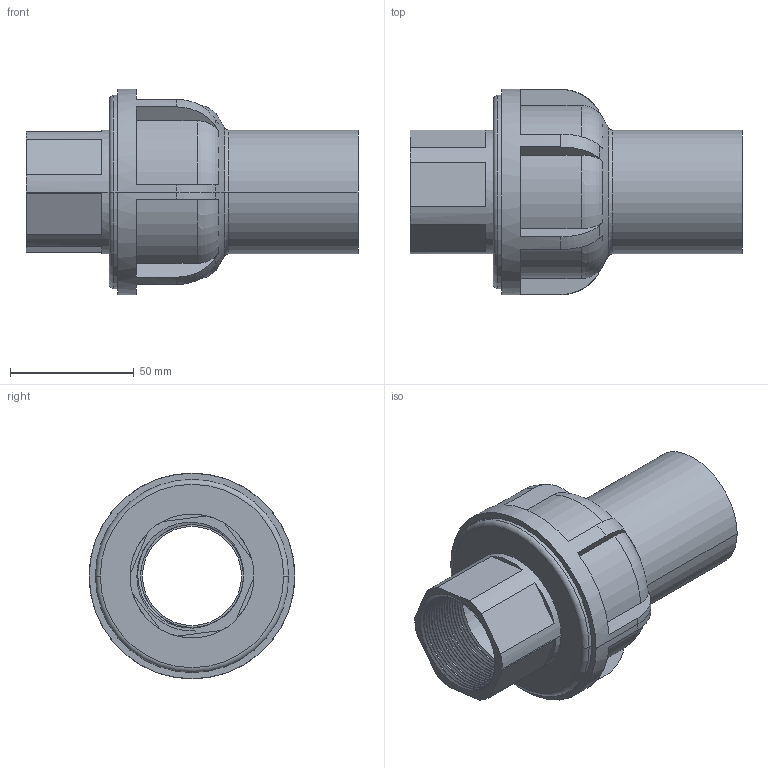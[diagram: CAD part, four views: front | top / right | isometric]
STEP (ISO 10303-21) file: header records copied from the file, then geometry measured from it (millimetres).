
FILE_DESCRIPTION (( 'STEP AP214' ), '1' );
FILE_NAME ('50x1.5inch-female.STEP', '2021-05-14T13:05:33', ( 'D002203' ), ( 'Fusion Group Ltd.' ), 'SwSTEP 2.0', 'SolidWorks 2019', '' );
FILE_SCHEMA (( 'AUTOMOTIVE_DESIGN' ));
Length unit declared in the file: millimetre
Products named in the file (1): 50x1.5inch-female
Bounding box: 134 x 83 x 83 mm (x, y, z)
Volume: 186266.7 mm3; surface area: 54396.4 mm2
Topology: 1 solids, 1 shells, 105 faces, 292 edges, 192 vertices
Faces by surface type: cylinder 48, plane 36, torus 17, cone 2, bspline 2
Entity records: 6434 total; most frequent: CARTESIAN_POINT 2884, ORIENTED_EDGE 584, DIRECTION 476, EDGE_CURVE 292, VERTEX_POINT 192, AXIS2_PLACEMENT_3D 186, EDGE_LOOP 110, ADVANCED_FACE 105
